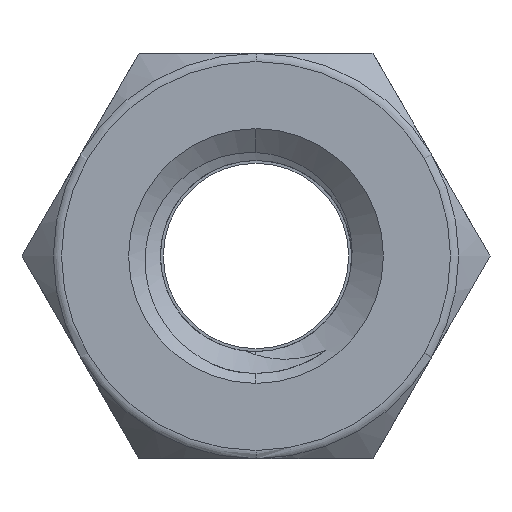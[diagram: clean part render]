
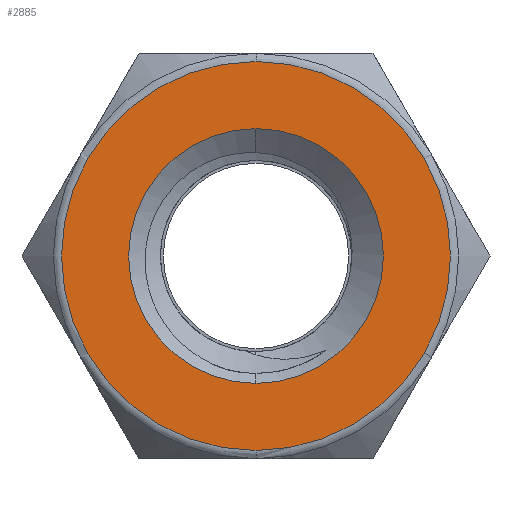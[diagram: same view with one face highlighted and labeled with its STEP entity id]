
A CAD part, front view. The second image highlights one B-rep face of the part: STEP entity #2885.
In plain terms, the highlighted planar face has unit normal (0, -1, 0).
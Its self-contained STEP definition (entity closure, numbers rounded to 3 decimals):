
#18 = FACE_BOUND ( 'NONE', #1546, .T. ) ;
#78 = DIRECTION ( 'NONE',  ( 0., 0., 1. ) ) ;
#80 = ORIENTED_EDGE ( 'NONE', *, *, #407, .T. ) ;
#290 = EDGE_CURVE ( 'NONE', #1146, #1989, #1863, .T. ) ;
#327 = DIRECTION ( 'NONE',  ( 0., -1., 0. ) ) ;
#407 = EDGE_CURVE ( 'NONE', #3043, #1778, #1113, .T. ) ;
#703 = CARTESIAN_POINT ( 'NONE',  ( 0., -1.75, 0. ) ) ;
#793 = CARTESIAN_POINT ( 'NONE',  ( 0., -1.75, 2.2 ) ) ;
#798 = FACE_OUTER_BOUND ( 'NONE', #966, .T. ) ;
#827 = DIRECTION ( 'NONE',  ( 0., -1., 0. ) ) ;
#844 = ORIENTED_EDGE ( 'NONE', *, *, #2510, .T. ) ;
#966 = EDGE_LOOP ( 'NONE', ( #80, #844 ) ) ;
#972 = CARTESIAN_POINT ( 'NONE',  ( 0., -1.75, 0. ) ) ;
#1011 = EDGE_CURVE ( 'NONE', #1989, #1146, #1869, .T. ) ;
#1089 = DIRECTION ( 'NONE',  ( 0., 0., 1. ) ) ;
#1113 = CIRCLE ( 'NONE', #2435, 3.359 ) ;
#1140 = ORIENTED_EDGE ( 'NONE', *, *, #290, .F. ) ;
#1146 = VERTEX_POINT ( 'NONE', #2819 ) ;
#1352 = DIRECTION ( 'NONE',  ( 0., 1., 0. ) ) ;
#1546 = EDGE_LOOP ( 'NONE', ( #2379, #1140 ) ) ;
#1652 = CARTESIAN_POINT ( 'NONE',  ( 0., -1.75, 0. ) ) ;
#1742 = DIRECTION ( 'NONE',  ( 0., 0., -1. ) ) ;
#1778 = VERTEX_POINT ( 'NONE', #3353 ) ;
#1863 = CIRCLE ( 'NONE', #3270, 2.2 ) ;
#1869 = CIRCLE ( 'NONE', #3048, 2.2 ) ;
#1920 = DIRECTION ( 'NONE',  ( 0., 0., -1. ) ) ;
#1989 = VERTEX_POINT ( 'NONE', #793 ) ;
#2237 = AXIS2_PLACEMENT_3D ( 'NONE', #3018, #327, #1089 ) ;
#2379 = ORIENTED_EDGE ( 'NONE', *, *, #1011, .F. ) ;
#2435 = AXIS2_PLACEMENT_3D ( 'NONE', #703, #2571, #78 ) ;
#2464 = AXIS2_PLACEMENT_3D ( 'NONE', #1652, #1352, #3486 ) ;
#2510 = EDGE_CURVE ( 'NONE', #1778, #3043, #3470, .T. ) ;
#2571 = DIRECTION ( 'NONE',  ( 0., -1., 0. ) ) ;
#2819 = CARTESIAN_POINT ( 'NONE',  ( 0., -1.75, -2.2 ) ) ;
#2885 = ADVANCED_FACE ( 'NONE', ( #798, #18 ), #3027, .F. ) ;
#3018 = CARTESIAN_POINT ( 'NONE',  ( 0., -1.75, 0. ) ) ;
#3027 = PLANE ( 'NONE',  #2464 ) ;
#3043 = VERTEX_POINT ( 'NONE', #3258 ) ;
#3048 = AXIS2_PLACEMENT_3D ( 'NONE', #972, #3063, #1742 ) ;
#3063 = DIRECTION ( 'NONE',  ( 0., -1., 0. ) ) ;
#3258 = CARTESIAN_POINT ( 'NONE',  ( 0., -1.75, 3.359 ) ) ;
#3259 = CARTESIAN_POINT ( 'NONE',  ( 0., -1.75, 0. ) ) ;
#3270 = AXIS2_PLACEMENT_3D ( 'NONE', #3259, #827, #1920 ) ;
#3353 = CARTESIAN_POINT ( 'NONE',  ( 0., -1.75, -3.359 ) ) ;
#3470 = CIRCLE ( 'NONE', #2237, 3.359 ) ;
#3486 = DIRECTION ( 'NONE',  ( 0., 0., 1. ) ) ;
